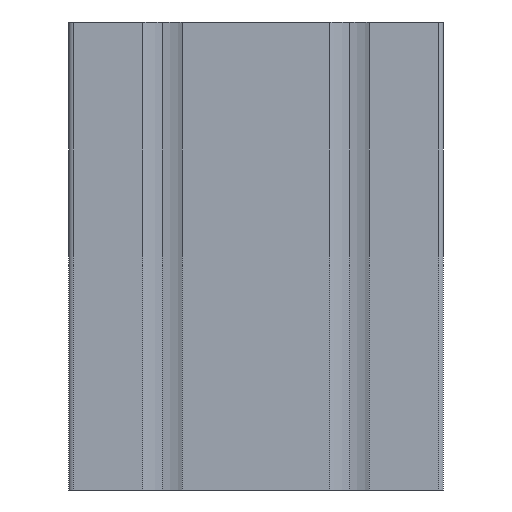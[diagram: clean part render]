
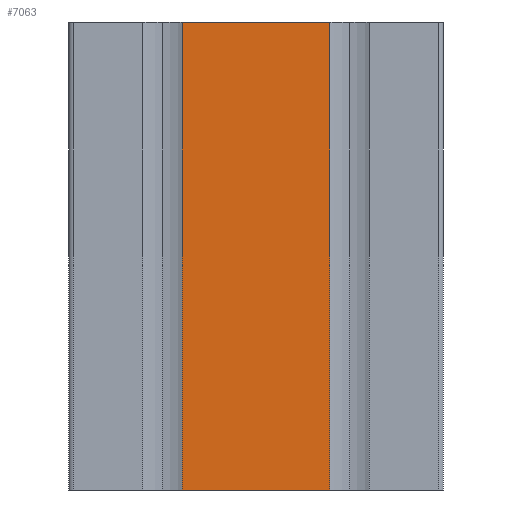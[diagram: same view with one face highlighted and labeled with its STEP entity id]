
A CAD part, left-side view. The second image highlights one B-rep face of the part: STEP entity #7063.
In plain terms, the highlighted planar face has unit normal (-1, 0, 0).
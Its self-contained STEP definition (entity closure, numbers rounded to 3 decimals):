
#52 = CARTESIAN_POINT ( 'NONE',  ( -60., 15.8, 0. ) ) ;
#152 = ORIENTED_EDGE ( 'NONE', *, *, #1901, .F. ) ;
#490 = VECTOR ( 'NONE', #3538, 1000. ) ;
#631 = VECTOR ( 'NONE', #1825, 1000. ) ;
#746 = ORIENTED_EDGE ( 'NONE', *, *, #2340, .T. ) ;
#752 = FACE_OUTER_BOUND ( 'NONE', #5057, .T. ) ;
#790 = VECTOR ( 'NONE', #2414, 1000. ) ;
#1173 = EDGE_CURVE ( 'NONE', #6528, #4538, #3268, .T. ) ;
#1337 = CARTESIAN_POINT ( 'NONE',  ( -60., 15.8, -100. ) ) ;
#1684 = CARTESIAN_POINT ( 'NONE',  ( -60., -15.8, 0. ) ) ;
#1825 = DIRECTION ( 'NONE',  ( 0., -1., 0. ) ) ;
#1901 = EDGE_CURVE ( 'NONE', #4538, #3020, #3953, .T. ) ;
#1927 = CARTESIAN_POINT ( 'NONE',  ( -60., 15.8, 0. ) ) ;
#2025 = LINE ( 'NONE', #5162, #790 ) ;
#2171 = CARTESIAN_POINT ( 'NONE',  ( -60., 15.8, -100. ) ) ;
#2340 = EDGE_CURVE ( 'NONE', #2529, #3020, #2025, .T. ) ;
#2397 = ORIENTED_EDGE ( 'NONE', *, *, #5403, .T. ) ;
#2414 = DIRECTION ( 'NONE',  ( 0., 0., 1. ) ) ;
#2529 = VERTEX_POINT ( 'NONE', #5450 ) ;
#2922 = LINE ( 'NONE', #6333, #490 ) ;
#2953 = PLANE ( 'NONE',  #5361 ) ;
#3020 = VERTEX_POINT ( 'NONE', #1684 ) ;
#3268 = LINE ( 'NONE', #5936, #6532 ) ;
#3538 = DIRECTION ( 'NONE',  ( 0., -1., 0. ) ) ;
#3953 = LINE ( 'NONE', #52, #631 ) ;
#4110 = DIRECTION ( 'NONE',  ( 0., 0., 1. ) ) ;
#4538 = VERTEX_POINT ( 'NONE', #1927 ) ;
#4906 = DIRECTION ( 'NONE',  ( 0., 0., 1. ) ) ;
#5057 = EDGE_LOOP ( 'NONE', ( #152, #6896, #2397, #746 ) ) ;
#5162 = CARTESIAN_POINT ( 'NONE',  ( -60., -15.8, -100. ) ) ;
#5361 = AXIS2_PLACEMENT_3D ( 'NONE', #1337, #6224, #4110 ) ;
#5403 = EDGE_CURVE ( 'NONE', #6528, #2529, #2922, .T. ) ;
#5450 = CARTESIAN_POINT ( 'NONE',  ( -60., -15.8, -100. ) ) ;
#5936 = CARTESIAN_POINT ( 'NONE',  ( -60., 15.8, -100. ) ) ;
#6224 = DIRECTION ( 'NONE',  ( -1., 0., 0. ) ) ;
#6333 = CARTESIAN_POINT ( 'NONE',  ( -60., 15.8, -100. ) ) ;
#6528 = VERTEX_POINT ( 'NONE', #2171 ) ;
#6532 = VECTOR ( 'NONE', #4906, 1000. ) ;
#6896 = ORIENTED_EDGE ( 'NONE', *, *, #1173, .F. ) ;
#7063 = ADVANCED_FACE ( 'NONE', ( #752 ), #2953, .T. ) ;
